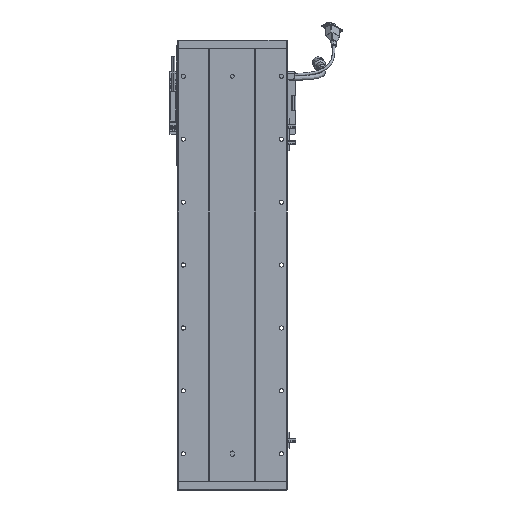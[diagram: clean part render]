
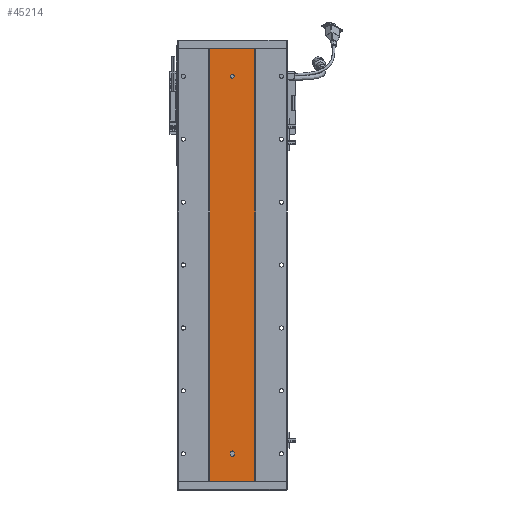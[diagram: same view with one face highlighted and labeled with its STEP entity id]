
A CAD part, front view. The second image highlights one B-rep face of the part: STEP entity #45214.
In plain terms, the highlighted planar face has unit normal (0, -1, 0).
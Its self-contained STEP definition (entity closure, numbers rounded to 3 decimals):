
#399 = CARTESIAN_POINT ( 'NONE',  ( 3280.529, 1415.701, 42. ) ) ;
#1167 = DIRECTION ( 'NONE',  ( 0., 0., -1. ) ) ;
#2248 = DIRECTION ( 'NONE',  ( 0., 1., 0. ) ) ;
#3924 = VERTEX_POINT ( 'NONE', #72500 ) ;
#5677 = VECTOR ( 'NONE', #28989, 1000. ) ;
#5789 = EDGE_CURVE ( 'NONE', #74500, #43543, #35157, .T. ) ;
#5897 = CIRCLE ( 'NONE', #53955, 3. ) ;
#6533 = VERTEX_POINT ( 'NONE', #58733 ) ;
#6775 = VERTEX_POINT ( 'NONE', #18183 ) ;
#7414 = EDGE_CURVE ( 'NONE', #73223, #17508, #40539, .T. ) ;
#9533 = AXIS2_PLACEMENT_3D ( 'NONE', #55824, #2248, #31996 ) ;
#10290 = CIRCLE ( 'NONE', #75271, 3. ) ;
#10469 = CARTESIAN_POINT ( 'NONE',  ( 3280.529, 1415.701, 643.5 ) ) ;
#10831 = CARTESIAN_POINT ( 'NONE',  ( 3280.529, 1415.701, 39. ) ) ;
#11161 = CARTESIAN_POINT ( 'NONE',  ( 3283.529, 1415.701, 42. ) ) ;
#11786 = EDGE_CURVE ( 'NONE', #6775, #76642, #65587, .T. ) ;
#12900 = DIRECTION ( 'NONE',  ( 0., -1., 0. ) ) ;
#14258 = CIRCLE ( 'NONE', #19322, 3. ) ;
#14473 = CARTESIAN_POINT ( 'NONE',  ( 3244.748, 1415.701, 0. ) ) ;
#16068 = CARTESIAN_POINT ( 'NONE',  ( 3244.748, 1415.701, 0. ) ) ;
#16566 = CARTESIAN_POINT ( 'NONE',  ( 3316.311, 1415.701, 687. ) ) ;
#17508 = VERTEX_POINT ( 'NONE', #60386 ) ;
#18183 = CARTESIAN_POINT ( 'NONE',  ( 3244.748, 1415.701, 687. ) ) ;
#18204 = ORIENTED_EDGE ( 'NONE', *, *, #45768, .T. ) ;
#19086 = EDGE_CURVE ( 'NONE', #3924, #74500, #65282, .T. ) ;
#19322 = AXIS2_PLACEMENT_3D ( 'NONE', #62637, #33041, #20510 ) ;
#20248 = ORIENTED_EDGE ( 'NONE', *, *, #71291, .F. ) ;
#20510 = DIRECTION ( 'NONE',  ( 0., 0., -1. ) ) ;
#22365 = DIRECTION ( 'NONE',  ( 0., 0., -1. ) ) ;
#22842 = ORIENTED_EDGE ( 'NONE', *, *, #31838, .F. ) ;
#22956 = CARTESIAN_POINT ( 'NONE',  ( 3280.529, 1415.701, 640.5 ) ) ;
#24626 = CARTESIAN_POINT ( 'NONE',  ( 3244.748, 1415.701, 687. ) ) ;
#24663 = CARTESIAN_POINT ( 'NONE',  ( 3316.311, 1415.701, 687. ) ) ;
#26742 = CARTESIAN_POINT ( 'NONE',  ( 3283.529, 1415.701, 45. ) ) ;
#27129 = LINE ( 'NONE', #26742, #58927 ) ;
#27291 = VECTOR ( 'NONE', #33304, 1000. ) ;
#27660 = DIRECTION ( 'NONE',  ( 0., 0., -1. ) ) ;
#27759 = VECTOR ( 'NONE', #22365, 1000. ) ;
#28517 = ORIENTED_EDGE ( 'NONE', *, *, #19086, .F. ) ;
#28989 = DIRECTION ( 'NONE',  ( 0., 0., -1. ) ) ;
#29886 = EDGE_CURVE ( 'NONE', #76642, #6533, #31903, .T. ) ;
#31339 = ORIENTED_EDGE ( 'NONE', *, *, #29886, .F. ) ;
#31838 = EDGE_CURVE ( 'NONE', #17508, #73223, #10290, .T. ) ;
#31903 = LINE ( 'NONE', #16566, #27291 ) ;
#31996 = DIRECTION ( 'NONE',  ( 0., 0., 1. ) ) ;
#32243 = DIRECTION ( 'NONE',  ( 1., 0., 0. ) ) ;
#32896 = VERTEX_POINT ( 'NONE', #16068 ) ;
#33041 = DIRECTION ( 'NONE',  ( 0., -1., 0. ) ) ;
#33304 = DIRECTION ( 'NONE',  ( 0., 0., -1. ) ) ;
#33761 = FACE_BOUND ( 'NONE', #51679, .T. ) ;
#35157 = LINE ( 'NONE', #76251, #27759 ) ;
#36899 = EDGE_LOOP ( 'NONE', ( #51434, #37925, #28517, #20248, #63875 ) ) ;
#37071 = EDGE_CURVE ( 'NONE', #51048, #44874, #14258, .T. ) ;
#37925 = ORIENTED_EDGE ( 'NONE', *, *, #5789, .F. ) ;
#39293 = LINE ( 'NONE', #64593, #5677 ) ;
#40539 = CIRCLE ( 'NONE', #64885, 3. ) ;
#42890 = VECTOR ( 'NONE', #32243, 1000. ) ;
#43543 = VERTEX_POINT ( 'NONE', #52141 ) ;
#44291 = PLANE ( 'NONE',  #9533 ) ;
#44874 = VERTEX_POINT ( 'NONE', #11161 ) ;
#45214 = ADVANCED_FACE ( 'NONE', ( #55307, #33761, #65580 ), #44291, .F. ) ;
#45768 = EDGE_CURVE ( 'NONE', #6775, #32896, #39293, .T. ) ;
#47348 = CARTESIAN_POINT ( 'NONE',  ( 3277.529, 1415.701, 45. ) ) ;
#48564 = EDGE_CURVE ( 'NONE', #32896, #6533, #74771, .T. ) ;
#48758 = CARTESIAN_POINT ( 'NONE',  ( 3280.529, 1415.701, 643.5 ) ) ;
#51048 = VERTEX_POINT ( 'NONE', #10831 ) ;
#51434 = ORIENTED_EDGE ( 'NONE', *, *, #52486, .F. ) ;
#51557 = DIRECTION ( 'NONE',  ( 0., -1., 0. ) ) ;
#51679 = EDGE_LOOP ( 'NONE', ( #64932, #22842 ) ) ;
#52141 = CARTESIAN_POINT ( 'NONE',  ( 3277.529, 1415.701, 42. ) ) ;
#52486 = EDGE_CURVE ( 'NONE', #43543, #51048, #5897, .T. ) ;
#53955 = AXIS2_PLACEMENT_3D ( 'NONE', #399, #54239, #1167 ) ;
#54239 = DIRECTION ( 'NONE',  ( 0., -1., 0. ) ) ;
#55307 = FACE_BOUND ( 'NONE', #36899, .T. ) ;
#55824 = CARTESIAN_POINT ( 'NONE',  ( 3244.748, 1415.701, 687. ) ) ;
#56693 = DIRECTION ( 'NONE',  ( 0., -1., 0. ) ) ;
#57219 = VECTOR ( 'NONE', #60477, 1000. ) ;
#58733 = CARTESIAN_POINT ( 'NONE',  ( 3316.311, 1415.701, 0. ) ) ;
#58927 = VECTOR ( 'NONE', #68596, 1000. ) ;
#60386 = CARTESIAN_POINT ( 'NONE',  ( 3280.529, 1415.701, 646.5 ) ) ;
#60477 = DIRECTION ( 'NONE',  ( 1., 0., 0. ) ) ;
#62084 = EDGE_LOOP ( 'NONE', ( #62263, #31339, #66729, #18204 ) ) ;
#62263 = ORIENTED_EDGE ( 'NONE', *, *, #48564, .T. ) ;
#62637 = CARTESIAN_POINT ( 'NONE',  ( 3280.529, 1415.701, 42. ) ) ;
#63488 = CARTESIAN_POINT ( 'NONE',  ( 3280.529, 1415.701, 45. ) ) ;
#63875 = ORIENTED_EDGE ( 'NONE', *, *, #37071, .F. ) ;
#64593 = CARTESIAN_POINT ( 'NONE',  ( 3244.748, 1415.701, 687. ) ) ;
#64602 = DIRECTION ( 'NONE',  ( 0., 0., -1. ) ) ;
#64885 = AXIS2_PLACEMENT_3D ( 'NONE', #10469, #51557, #64602 ) ;
#64932 = ORIENTED_EDGE ( 'NONE', *, *, #7414, .F. ) ;
#65282 = CIRCLE ( 'NONE', #70093, 3. ) ;
#65580 = FACE_OUTER_BOUND ( 'NONE', #62084, .T. ) ;
#65587 = LINE ( 'NONE', #24626, #57219 ) ;
#66729 = ORIENTED_EDGE ( 'NONE', *, *, #11786, .F. ) ;
#66795 = DIRECTION ( 'NONE',  ( 0., 0., -1. ) ) ;
#68596 = DIRECTION ( 'NONE',  ( 0., 0., 1. ) ) ;
#70093 = AXIS2_PLACEMENT_3D ( 'NONE', #63488, #56693, #27660 ) ;
#71291 = EDGE_CURVE ( 'NONE', #44874, #3924, #27129, .T. ) ;
#72500 = CARTESIAN_POINT ( 'NONE',  ( 3283.529, 1415.701, 45. ) ) ;
#73223 = VERTEX_POINT ( 'NONE', #22956 ) ;
#74500 = VERTEX_POINT ( 'NONE', #47348 ) ;
#74771 = LINE ( 'NONE', #14473, #42890 ) ;
#75271 = AXIS2_PLACEMENT_3D ( 'NONE', #48758, #12900, #66795 ) ;
#76251 = CARTESIAN_POINT ( 'NONE',  ( 3277.529, 1415.701, 45. ) ) ;
#76642 = VERTEX_POINT ( 'NONE', #24663 ) ;
